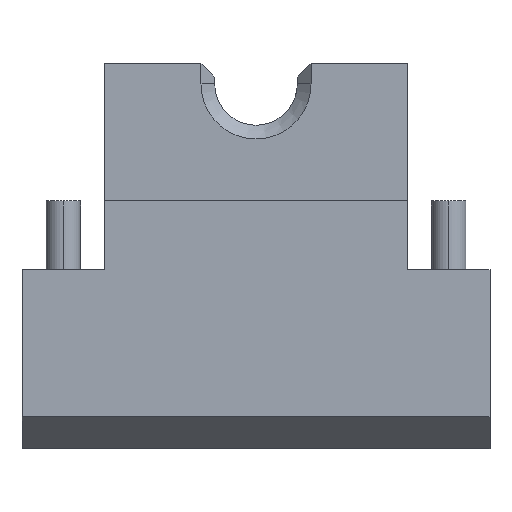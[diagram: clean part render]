
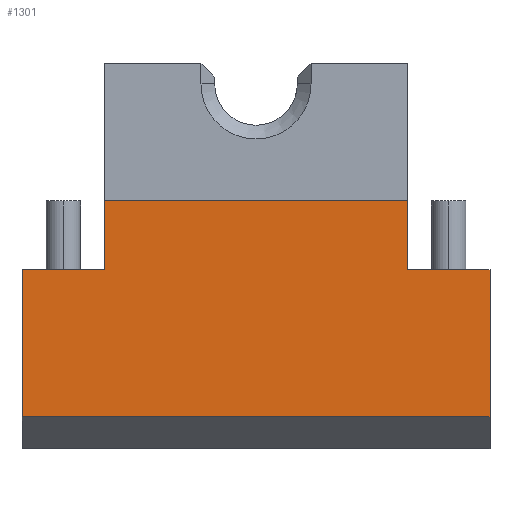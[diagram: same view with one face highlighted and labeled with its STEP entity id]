
A CAD part, left-side view. The second image highlights one B-rep face of the part: STEP entity #1301.
In plain terms, the highlighted planar face has unit normal (-1, 0, 0).
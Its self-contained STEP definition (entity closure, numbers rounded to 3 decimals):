
#21 = CARTESIAN_POINT ( 'NONE',  ( 0., -11., 28. ) ) ;
#23 = AXIS2_PLACEMENT_3D ( 'NONE', #482, #883, #171 ) ;
#46 = VECTOR ( 'NONE', #540, 1000. ) ;
#56 = DIRECTION ( 'NONE',  ( 0., -1., 0. ) ) ;
#85 = CARTESIAN_POINT ( 'NONE',  ( 0., 17., 13. ) ) ;
#93 = DIRECTION ( 'NONE',  ( 0., 1., 0. ) ) ;
#108 = VECTOR ( 'NONE', #718, 1000. ) ;
#132 = DIRECTION ( 'NONE',  ( 0., -1., 0. ) ) ;
#154 = EDGE_CURVE ( 'NONE', #238, #507, #894, .T. ) ;
#160 = CARTESIAN_POINT ( 'NONE',  ( 0., 11., 13. ) ) ;
#171 = DIRECTION ( 'NONE',  ( 0., 0., 1. ) ) ;
#200 = EDGE_CURVE ( 'NONE', #348, #475, #614, .T. ) ;
#238 = VERTEX_POINT ( 'NONE', #459 ) ;
#247 = EDGE_CURVE ( 'NONE', #1219, #475, #315, .T. ) ;
#258 = ORIENTED_EDGE ( 'NONE', *, *, #876, .F. ) ;
#298 = VECTOR ( 'NONE', #93, 1000. ) ;
#315 = LINE ( 'NONE', #1174, #632 ) ;
#337 = LINE ( 'NONE', #709, #1110 ) ;
#342 = CARTESIAN_POINT ( 'NONE',  ( 0., -11., 18. ) ) ;
#348 = VERTEX_POINT ( 'NONE', #805 ) ;
#356 = EDGE_LOOP ( 'NONE', ( #692, #1215, #1079, #1078, #902, #974, #258, #610 ) ) ;
#368 = EDGE_CURVE ( 'NONE', #919, #348, #831, .T. ) ;
#397 = CARTESIAN_POINT ( 'NONE',  ( 0., 11., 18. ) ) ;
#424 = DIRECTION ( 'NONE',  ( 0., 0., -1. ) ) ;
#459 = CARTESIAN_POINT ( 'NONE',  ( 0., 11., 13. ) ) ;
#475 = VERTEX_POINT ( 'NONE', #890 ) ;
#482 = CARTESIAN_POINT ( 'NONE',  ( 0., 17., 28. ) ) ;
#507 = VERTEX_POINT ( 'NONE', #397 ) ;
#523 = LINE ( 'NONE', #963, #298 ) ;
#540 = DIRECTION ( 'NONE',  ( 0., -1., 0. ) ) ;
#549 = VECTOR ( 'NONE', #56, 1000. ) ;
#562 = VECTOR ( 'NONE', #424, 1000. ) ;
#577 = PLANE ( 'NONE',  #23 ) ;
#610 = ORIENTED_EDGE ( 'NONE', *, *, #661, .F. ) ;
#614 = LINE ( 'NONE', #1147, #46 ) ;
#629 = VERTEX_POINT ( 'NONE', #1293 ) ;
#632 = VECTOR ( 'NONE', #867, 1000. ) ;
#648 = CARTESIAN_POINT ( 'NONE',  ( 0., 17., 13. ) ) ;
#661 = EDGE_CURVE ( 'NONE', #773, #629, #961, .T. ) ;
#692 = ORIENTED_EDGE ( 'NONE', *, *, #1210, .T. ) ;
#709 = CARTESIAN_POINT ( 'NONE',  ( 0., -11., 13. ) ) ;
#718 = DIRECTION ( 'NONE',  ( 0., 0., -1. ) ) ;
#773 = VERTEX_POINT ( 'NONE', #342 ) ;
#805 = CARTESIAN_POINT ( 'NONE',  ( 0., 17., 2.309 ) ) ;
#831 = LINE ( 'NONE', #1108, #562 ) ;
#867 = DIRECTION ( 'NONE',  ( 0., 0., -1. ) ) ;
#876 = EDGE_CURVE ( 'NONE', #629, #1219, #337, .T. ) ;
#883 = DIRECTION ( 'NONE',  ( -1., 0., 0. ) ) ;
#890 = CARTESIAN_POINT ( 'NONE',  ( 0., -17., 2.309 ) ) ;
#894 = LINE ( 'NONE', #160, #1166 ) ;
#902 = ORIENTED_EDGE ( 'NONE', *, *, #200, .T. ) ;
#919 = VERTEX_POINT ( 'NONE', #85 ) ;
#956 = FACE_OUTER_BOUND ( 'NONE', #356, .T. ) ;
#961 = LINE ( 'NONE', #21, #108 ) ;
#963 = CARTESIAN_POINT ( 'NONE',  ( 0., -17., 18. ) ) ;
#974 = ORIENTED_EDGE ( 'NONE', *, *, #247, .F. ) ;
#987 = CARTESIAN_POINT ( 'NONE',  ( 0., -17., 13. ) ) ;
#995 = DIRECTION ( 'NONE',  ( 0., 0., 1. ) ) ;
#1078 = ORIENTED_EDGE ( 'NONE', *, *, #368, .T. ) ;
#1079 = ORIENTED_EDGE ( 'NONE', *, *, #1084, .F. ) ;
#1084 = EDGE_CURVE ( 'NONE', #919, #238, #1107, .T. ) ;
#1107 = LINE ( 'NONE', #648, #549 ) ;
#1108 = CARTESIAN_POINT ( 'NONE',  ( 0., 17., 28. ) ) ;
#1110 = VECTOR ( 'NONE', #132, 1000. ) ;
#1147 = CARTESIAN_POINT ( 'NONE',  ( 0., 17., 2.309 ) ) ;
#1166 = VECTOR ( 'NONE', #995, 1000. ) ;
#1174 = CARTESIAN_POINT ( 'NONE',  ( 0., -17., 28. ) ) ;
#1210 = EDGE_CURVE ( 'NONE', #773, #507, #523, .T. ) ;
#1215 = ORIENTED_EDGE ( 'NONE', *, *, #154, .F. ) ;
#1219 = VERTEX_POINT ( 'NONE', #987 ) ;
#1293 = CARTESIAN_POINT ( 'NONE',  ( 0., -11., 13. ) ) ;
#1301 = ADVANCED_FACE ( 'NONE', ( #956 ), #577, .T. ) ;
